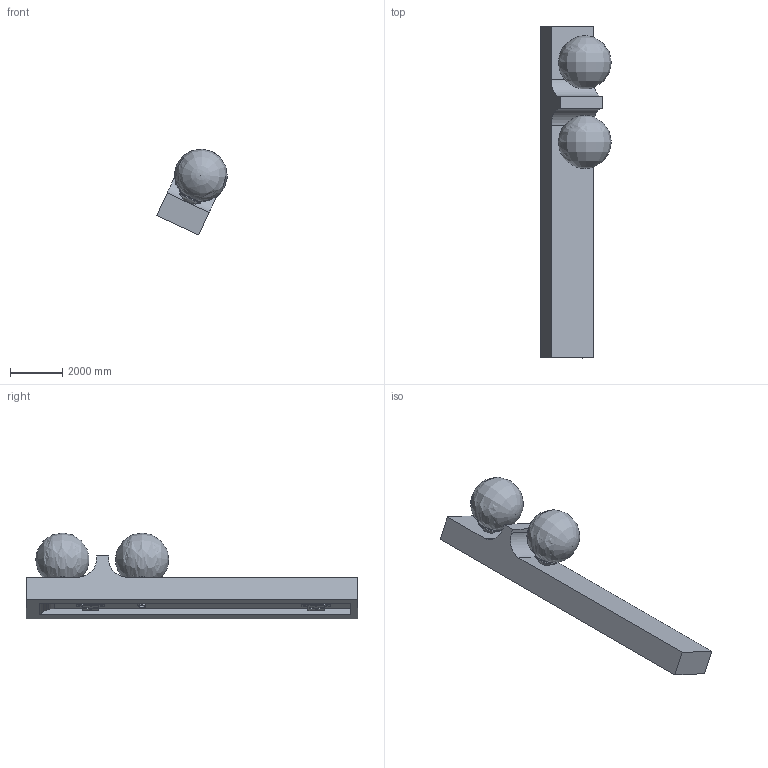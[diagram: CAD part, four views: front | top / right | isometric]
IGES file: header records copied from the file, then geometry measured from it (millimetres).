
Global section: file name: Asymmetrical Travertine Wall Sconce; native system: AutoCAD 2022 - 简体中文 (Simplified Chinese),62HAuto; preprocessor: desk Translation Framework DWG producer (atf_dwg_producer); organization: unknown; date: 20250822.161828; units: inch
Bounding box: 2705.92 x 12705.36 x 3291.05 mm (x, y, z)
Volume: 20155789653.3 mm3; surface area: 146094082.7 mm2
Topology: 19 solids, 19 shells, 533 faces, 1370 edges, 992 vertices
Faces by surface type: bspline 533
